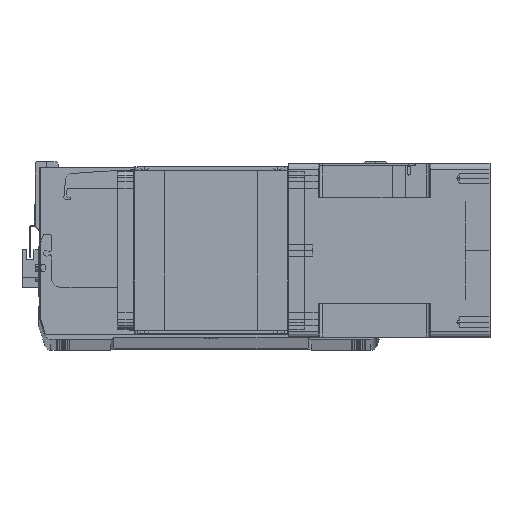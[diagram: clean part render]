
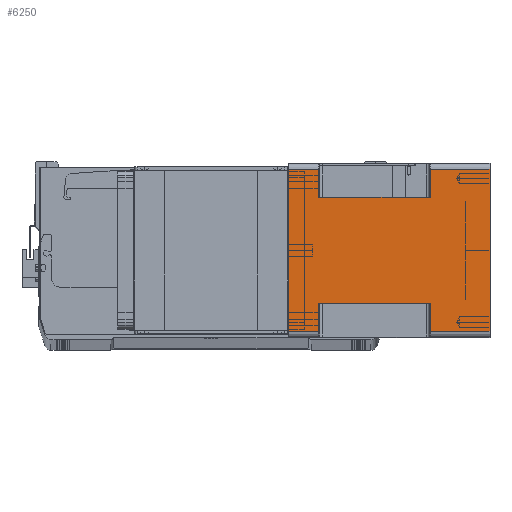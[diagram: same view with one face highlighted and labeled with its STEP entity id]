
A CAD part, top view. The second image highlights one B-rep face of the part: STEP entity #6250.
In plain terms, the highlighted planar face has unit normal (0, 0, 1) as drawn and (1, 0, 0) by its records, which use the part's own axes.
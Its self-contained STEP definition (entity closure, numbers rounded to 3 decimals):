
#21 = CARTESIAN_POINT ( 'NONE',  ( 71., 66., -164. ) ) ;
#119 = ORIENTED_EDGE ( 'NONE', *, *, #23590, .T. ) ;
#158 = DIRECTION ( 'NONE',  ( 0., 0., 1. ) ) ;
#1348 = CARTESIAN_POINT ( 'NONE',  ( 71., -66., 0. ) ) ;
#2040 = LINE ( 'NONE', #34180, #24019 ) ;
#4072 = ORIENTED_EDGE ( 'NONE', *, *, #20935, .T. ) ;
#4081 = LINE ( 'NONE', #8927, #14127 ) ;
#4623 = VERTEX_POINT ( 'NONE', #1348 ) ;
#5032 = EDGE_CURVE ( 'NONE', #32271, #4623, #15134, .T. ) ;
#5041 = VERTEX_POINT ( 'NONE', #21883 ) ;
#5165 = VECTOR ( 'NONE', #16593, 1000. ) ;
#5621 = LINE ( 'NONE', #21, #9925 ) ;
#6004 = EDGE_CURVE ( 'NONE', #33296, #5041, #4081, .T. ) ;
#6250 = ADVANCED_FACE ( 'NONE', ( #17916 ), #33449, .T. ) ;
#7152 = DIRECTION ( 'NONE',  ( 0., 1., 0. ) ) ;
#7796 = VERTEX_POINT ( 'NONE', #28599 ) ;
#8645 = CARTESIAN_POINT ( 'NONE',  ( 71., -66., -115.5 ) ) ;
#8927 = CARTESIAN_POINT ( 'NONE',  ( 71., -43., -164. ) ) ;
#9925 = VECTOR ( 'NONE', #38708, 1000. ) ;
#9957 = CARTESIAN_POINT ( 'NONE',  ( 71., -66., -164. ) ) ;
#12069 = CARTESIAN_POINT ( 'NONE',  ( 71., -43., -24.5 ) ) ;
#12418 = CARTESIAN_POINT ( 'NONE',  ( 71., -66., -164. ) ) ;
#13287 = CARTESIAN_POINT ( 'NONE',  ( 71., -66., 0. ) ) ;
#13429 = LINE ( 'NONE', #36129, #27281 ) ;
#14127 = VECTOR ( 'NONE', #14904, 1000. ) ;
#14346 = VECTOR ( 'NONE', #27794, 1000. ) ;
#14573 = ORIENTED_EDGE ( 'NONE', *, *, #20740, .F. ) ;
#14812 = LINE ( 'NONE', #12069, #27696 ) ;
#14904 = DIRECTION ( 'NONE',  ( 0., 0., 1. ) ) ;
#15010 = DIRECTION ( 'NONE',  ( 0., 1., 0. ) ) ;
#15134 = LINE ( 'NONE', #12418, #16547 ) ;
#15636 = LINE ( 'NONE', #23497, #20364 ) ;
#15914 = DIRECTION ( 'NONE',  ( 0., 1., 0. ) ) ;
#16062 = ORIENTED_EDGE ( 'NONE', *, *, #37028, .T. ) ;
#16506 = DIRECTION ( 'NONE',  ( 0., 1., 0. ) ) ;
#16547 = VECTOR ( 'NONE', #37342, 1000. ) ;
#16593 = DIRECTION ( 'NONE',  ( 0., 0., 1. ) ) ;
#16967 = CARTESIAN_POINT ( 'NONE',  ( 71., 43., -24.5 ) ) ;
#17197 = ORIENTED_EDGE ( 'NONE', *, *, #6004, .F. ) ;
#17615 = CARTESIAN_POINT ( 'NONE',  ( 71., 66., 0. ) ) ;
#17698 = DIRECTION ( 'NONE',  ( 0., -1., 0. ) ) ;
#17835 = VERTEX_POINT ( 'NONE', #16967 ) ;
#17878 = VERTEX_POINT ( 'NONE', #37993 ) ;
#17916 = FACE_OUTER_BOUND ( 'NONE', #19684, .T. ) ;
#18479 = ORIENTED_EDGE ( 'NONE', *, *, #33204, .T. ) ;
#19193 = VERTEX_POINT ( 'NONE', #17615 ) ;
#19283 = CARTESIAN_POINT ( 'NONE',  ( 71., -66., -115.5 ) ) ;
#19684 = EDGE_LOOP ( 'NONE', ( #17197, #4072, #28529, #35196, #18479, #119, #34587, #23520, #31811, #14573, #29388, #16062 ) ) ;
#20258 = VECTOR ( 'NONE', #16506, 1000. ) ;
#20364 = VECTOR ( 'NONE', #23634, 1000. ) ;
#20740 = EDGE_CURVE ( 'NONE', #4623, #19193, #35563, .T. ) ;
#20935 = EDGE_CURVE ( 'NONE', #33296, #35358, #30744, .T. ) ;
#21516 = CARTESIAN_POINT ( 'NONE',  ( 71., -66., -24.5 ) ) ;
#21733 = DIRECTION ( 'NONE',  ( 0., 0., -1. ) ) ;
#21883 = CARTESIAN_POINT ( 'NONE',  ( 71., -43., -24.5 ) ) ;
#22152 = VECTOR ( 'NONE', #17698, 1000. ) ;
#23497 = CARTESIAN_POINT ( 'NONE',  ( 71., -66., -164. ) ) ;
#23520 = ORIENTED_EDGE ( 'NONE', *, *, #38877, .T. ) ;
#23590 = EDGE_CURVE ( 'NONE', #30130, #30823, #32468, .T. ) ;
#23634 = DIRECTION ( 'NONE',  ( 0., 1., 0. ) ) ;
#23749 = CARTESIAN_POINT ( 'NONE',  ( 71., 66., -115.5 ) ) ;
#24019 = VECTOR ( 'NONE', #15914, 1000. ) ;
#24931 = EDGE_CURVE ( 'NONE', #26775, #35358, #32827, .T. ) ;
#25065 = EDGE_CURVE ( 'NONE', #7796, #19193, #5621, .T. ) ;
#25141 = DIRECTION ( 'NONE',  ( 1., 0., 0. ) ) ;
#25343 = CARTESIAN_POINT ( 'NONE',  ( 71., -43., -115.5 ) ) ;
#26553 = CARTESIAN_POINT ( 'NONE',  ( 71., 43., -115.5 ) ) ;
#26775 = VERTEX_POINT ( 'NONE', #9957 ) ;
#26872 = CARTESIAN_POINT ( 'NONE',  ( 71., 43., -115.5 ) ) ;
#27281 = VECTOR ( 'NONE', #21733, 1000. ) ;
#27696 = VECTOR ( 'NONE', #15010, 1000. ) ;
#27794 = DIRECTION ( 'NONE',  ( 0., -1., 0. ) ) ;
#28529 = ORIENTED_EDGE ( 'NONE', *, *, #24931, .F. ) ;
#28599 = CARTESIAN_POINT ( 'NONE',  ( 71., 66., -24.5 ) ) ;
#29388 = ORIENTED_EDGE ( 'NONE', *, *, #5032, .F. ) ;
#29754 = AXIS2_PLACEMENT_3D ( 'NONE', #37551, #25141, #7152 ) ;
#29979 = LINE ( 'NONE', #36984, #39068 ) ;
#30130 = VERTEX_POINT ( 'NONE', #23749 ) ;
#30744 = LINE ( 'NONE', #8645, #22152 ) ;
#30823 = VERTEX_POINT ( 'NONE', #26553 ) ;
#31449 = EDGE_CURVE ( 'NONE', #17835, #30823, #13429, .T. ) ;
#31811 = ORIENTED_EDGE ( 'NONE', *, *, #25065, .T. ) ;
#32271 = VERTEX_POINT ( 'NONE', #21516 ) ;
#32468 = LINE ( 'NONE', #26872, #14346 ) ;
#32827 = LINE ( 'NONE', #37515, #5165 ) ;
#33204 = EDGE_CURVE ( 'NONE', #17878, #30130, #29979, .T. ) ;
#33296 = VERTEX_POINT ( 'NONE', #25343 ) ;
#33449 = PLANE ( 'NONE',  #29754 ) ;
#34180 = CARTESIAN_POINT ( 'NONE',  ( 71., -66., -24.5 ) ) ;
#34587 = ORIENTED_EDGE ( 'NONE', *, *, #31449, .F. ) ;
#35196 = ORIENTED_EDGE ( 'NONE', *, *, #37526, .T. ) ;
#35358 = VERTEX_POINT ( 'NONE', #19283 ) ;
#35563 = LINE ( 'NONE', #13287, #20258 ) ;
#36129 = CARTESIAN_POINT ( 'NONE',  ( 71., 43., -164. ) ) ;
#36984 = CARTESIAN_POINT ( 'NONE',  ( 71., 66., -164. ) ) ;
#37028 = EDGE_CURVE ( 'NONE', #32271, #5041, #14812, .T. ) ;
#37342 = DIRECTION ( 'NONE',  ( 0., 0., 1. ) ) ;
#37515 = CARTESIAN_POINT ( 'NONE',  ( 71., -66., -164. ) ) ;
#37526 = EDGE_CURVE ( 'NONE', #26775, #17878, #15636, .T. ) ;
#37551 = CARTESIAN_POINT ( 'NONE',  ( 71., -66., -164. ) ) ;
#37993 = CARTESIAN_POINT ( 'NONE',  ( 71., 66., -164. ) ) ;
#38708 = DIRECTION ( 'NONE',  ( 0., 0., 1. ) ) ;
#38877 = EDGE_CURVE ( 'NONE', #17835, #7796, #2040, .T. ) ;
#39068 = VECTOR ( 'NONE', #158, 1000. ) ;
